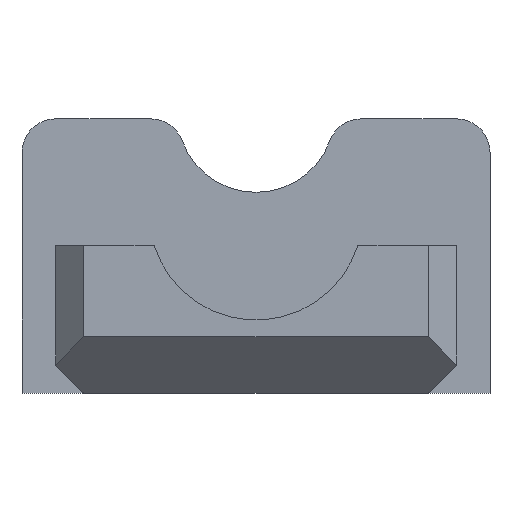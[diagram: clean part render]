
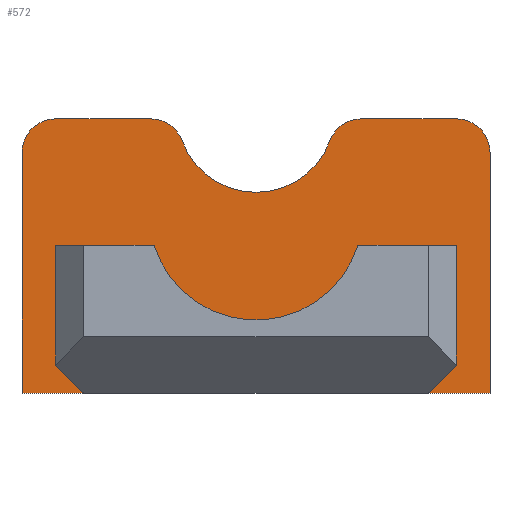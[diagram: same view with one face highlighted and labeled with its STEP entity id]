
A CAD part, left-side view. The second image highlights one B-rep face of the part: STEP entity #572.
In plain terms, the highlighted planar face has unit normal (-1, 0, 0).
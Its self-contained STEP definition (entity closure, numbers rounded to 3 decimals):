
#15=FACE_BOUND('',#64,.T.);
#32=FACE_OUTER_BOUND('',#63,.T.);
#63=EDGE_LOOP('',(#419,#420,#421,#422,#423,#424,#425,#426,#427,#428));
#64=EDGE_LOOP('',(#429,#430,#431,#432,#433,#434));
#90=CIRCLE('',#614,3.);
#91=CIRCLE('',#617,3.);
#92=CIRCLE('',#619,3.);
#93=CIRCLE('',#621,7.);
#94=CIRCLE('',#623,3.);
#95=CIRCLE('',#628,9.5);
#104=LINE('',#838,#174);
#111=LINE('',#861,#181);
#116=LINE('',#871,#186);
#118=LINE('',#875,#188);
#121=LINE('',#882,#191);
#122=LINE('',#883,#192);
#123=LINE('',#884,#193);
#124=LINE('',#885,#194);
#125=LINE('',#887,#195);
#126=LINE('',#890,#196);
#174=VECTOR('',#677,10.);
#181=VECTOR('',#702,10.);
#186=VECTOR('',#709,10.);
#188=VECTOR('',#713,10.);
#191=VECTOR('',#718,10.);
#192=VECTOR('',#719,10.);
#193=VECTOR('',#720,10.);
#194=VECTOR('',#721,10.);
#195=VECTOR('',#722,10.);
#196=VECTOR('',#725,10.);
#247=VERTEX_POINT('',#831);
#248=VERTEX_POINT('',#832);
#249=VERTEX_POINT('',#837);
#250=VERTEX_POINT('',#841);
#251=VERTEX_POINT('',#843);
#252=VERTEX_POINT('',#847);
#253=VERTEX_POINT('',#851);
#254=VERTEX_POINT('',#855);
#255=VERTEX_POINT('',#859);
#256=VERTEX_POINT('',#860);
#260=VERTEX_POINT('',#870);
#261=VERTEX_POINT('',#874);
#263=VERTEX_POINT('',#880);
#264=VERTEX_POINT('',#881);
#265=VERTEX_POINT('',#886);
#266=VERTEX_POINT('',#888);
#301=EDGE_CURVE('',#247,#248,#90,.T.);
#304=EDGE_CURVE('',#249,#248,#104,.T.);
#307=EDGE_CURVE('',#250,#251,#91,.T.);
#309=EDGE_CURVE('',#249,#252,#92,.T.);
#311=EDGE_CURVE('',#253,#252,#93,.T.);
#313=EDGE_CURVE('',#253,#254,#94,.T.);
#315=EDGE_CURVE('',#255,#256,#111,.T.);
#320=EDGE_CURVE('',#260,#255,#116,.T.);
#322=EDGE_CURVE('',#261,#260,#118,.T.);
#325=EDGE_CURVE('',#263,#264,#121,.F.);
#326=EDGE_CURVE('',#263,#251,#122,.T.);
#327=EDGE_CURVE('',#250,#254,#123,.T.);
#328=EDGE_CURVE('',#247,#264,#124,.T.);
#329=EDGE_CURVE('',#256,#265,#125,.T.);
#330=EDGE_CURVE('',#265,#266,#95,.T.);
#331=EDGE_CURVE('',#266,#261,#126,.T.);
#419=ORIENTED_EDGE('',*,*,#325,.F.);
#420=ORIENTED_EDGE('',*,*,#326,.T.);
#421=ORIENTED_EDGE('',*,*,#307,.F.);
#422=ORIENTED_EDGE('',*,*,#327,.T.);
#423=ORIENTED_EDGE('',*,*,#313,.F.);
#424=ORIENTED_EDGE('',*,*,#311,.T.);
#425=ORIENTED_EDGE('',*,*,#309,.F.);
#426=ORIENTED_EDGE('',*,*,#304,.T.);
#427=ORIENTED_EDGE('',*,*,#301,.F.);
#428=ORIENTED_EDGE('',*,*,#328,.T.);
#429=ORIENTED_EDGE('',*,*,#320,.T.);
#430=ORIENTED_EDGE('',*,*,#315,.T.);
#431=ORIENTED_EDGE('',*,*,#329,.T.);
#432=ORIENTED_EDGE('',*,*,#330,.T.);
#433=ORIENTED_EDGE('',*,*,#331,.T.);
#434=ORIENTED_EDGE('',*,*,#322,.T.);
#542=PLANE('',#627);
#572=ADVANCED_FACE('',(#32,#15),#542,.F.);
#614=AXIS2_PLACEMENT_3D('',#833,#671,#672);
#617=AXIS2_PLACEMENT_3D('',#844,#682,#683);
#619=AXIS2_PLACEMENT_3D('',#848,#687,#688);
#621=AXIS2_PLACEMENT_3D('',#852,#692,#693);
#623=AXIS2_PLACEMENT_3D('',#856,#697,#698);
#627=AXIS2_PLACEMENT_3D('',#879,#716,#717);
#628=AXIS2_PLACEMENT_3D('',#889,#723,#724);
#671=DIRECTION('center_axis',(1.,0.,0.));
#672=DIRECTION('ref_axis',(0.,0.707,0.707));
#677=DIRECTION('',(0.,1.,0.));
#682=DIRECTION('center_axis',(1.,0.,0.));
#683=DIRECTION('ref_axis',(0.,-0.707,0.707));
#687=DIRECTION('center_axis',(1.,0.,0.));
#688=DIRECTION('ref_axis',(0.,-0.572,0.82));
#692=DIRECTION('center_axis',(1.,0.,0.));
#693=DIRECTION('ref_axis',(0.,1.,0.));
#697=DIRECTION('center_axis',(1.,0.,0.));
#698=DIRECTION('ref_axis',(0.,0.572,0.82));
#702=DIRECTION('',(0.,0.,1.));
#709=DIRECTION('',(0.,1.,0.));
#713=DIRECTION('',(0.,0.,-1.));
#716=DIRECTION('center_axis',(1.,0.,0.));
#717=DIRECTION('ref_axis',(0.,1.,0.));
#718=DIRECTION('',(0.,-1.,0.));
#719=DIRECTION('',(0.,0.,1.));
#720=DIRECTION('',(0.,1.,0.));
#721=DIRECTION('',(0.,0.,-1.));
#722=DIRECTION('',(0.,-1.,0.));
#723=DIRECTION('center_axis',(-1.,0.,0.));
#724=DIRECTION('ref_axis',(0.,1.,0.));
#725=DIRECTION('',(0.,-1.,0.));
#831=CARTESIAN_POINT('',(96.15,20.8,-163.51));
#832=CARTESIAN_POINT('',(96.15,17.8,-160.51));
#833=CARTESIAN_POINT('Origin',(96.15,17.8,-163.51));
#837=CARTESIAN_POINT('',(96.15,9.382,-160.51));
#838=CARTESIAN_POINT('',(96.15,-20.8,-160.51));
#841=CARTESIAN_POINT('',(96.15,-17.8,-160.51));
#843=CARTESIAN_POINT('',(96.15,-20.8,-163.51));
#844=CARTESIAN_POINT('Origin',(96.15,-17.8,-163.51));
#847=CARTESIAN_POINT('',(96.15,6.567,-162.472));
#848=CARTESIAN_POINT('Origin',(96.15,9.382,-163.51));
#851=CARTESIAN_POINT('',(96.15,-6.567,-162.472));
#852=CARTESIAN_POINT('Origin',(96.15,0.,-160.048));
#855=CARTESIAN_POINT('',(96.15,-9.382,-160.51));
#856=CARTESIAN_POINT('Origin',(96.15,-9.382,-163.51));
#859=CARTESIAN_POINT('',(96.15,15.3,-184.9));
#860=CARTESIAN_POINT('',(96.15,15.3,-171.75));
#861=CARTESIAN_POINT('',(96.15,15.3,-178.796));
#870=CARTESIAN_POINT('',(96.15,-15.3,-184.9));
#871=CARTESIAN_POINT('',(96.15,0.,-184.9));
#874=CARTESIAN_POINT('',(96.15,-15.3,-171.75));
#875=CARTESIAN_POINT('',(96.15,-15.3,-172.221));
#879=CARTESIAN_POINT('Origin',(96.15,-15.3,-172.75));
#880=CARTESIAN_POINT('',(96.15,-20.8,-184.9));
#881=CARTESIAN_POINT('',(96.15,20.8,-184.9));
#882=CARTESIAN_POINT('',(96.15,-10.4,-184.9));
#883=CARTESIAN_POINT('',(96.15,-20.8,-166.601));
#884=CARTESIAN_POINT('',(96.15,-20.8,-160.51));
#885=CARTESIAN_POINT('',(96.15,20.8,-178.783));
#886=CARTESIAN_POINT('',(96.15,9.062,-171.75));
#887=CARTESIAN_POINT('',(96.15,0.,-171.75));
#888=CARTESIAN_POINT('',(96.15,-9.062,-171.75));
#889=CARTESIAN_POINT('Origin',(96.15,0.,-168.9));
#890=CARTESIAN_POINT('',(96.15,0.,-171.75));
